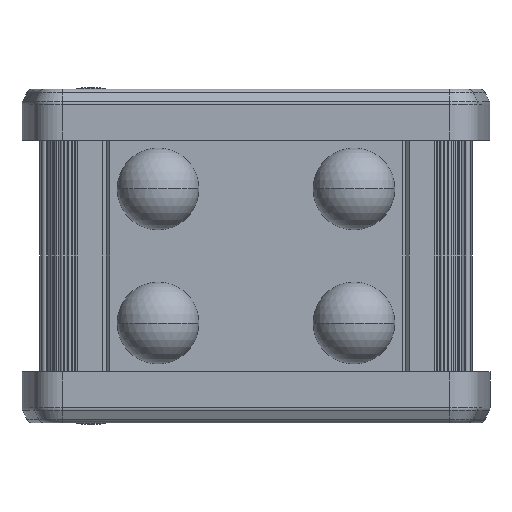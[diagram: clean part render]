
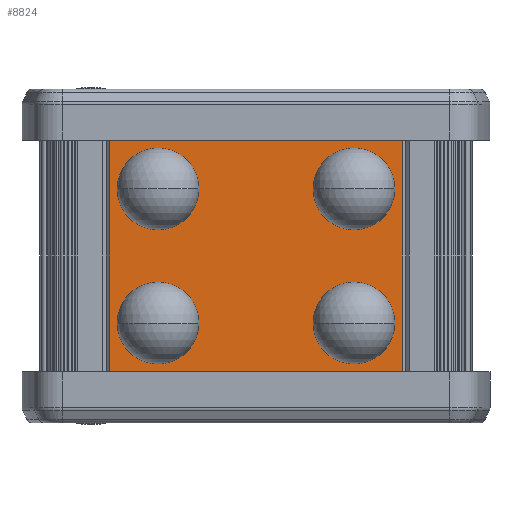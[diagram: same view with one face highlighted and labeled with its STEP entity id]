
A CAD part, front view. The second image highlights one B-rep face of the part: STEP entity #8824.
In plain terms, the highlighted planar face has unit normal (0, -1, 0).
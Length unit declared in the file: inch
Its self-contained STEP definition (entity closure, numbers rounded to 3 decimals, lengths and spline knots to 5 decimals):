
#663 = VECTOR ( 'NONE', #12424, 39.37008 ) ;
#1670 = VECTOR ( 'NONE', #2846, 39.37008 ) ;
#1831 = EDGE_CURVE ( 'NONE', #22042, #9207, #12651, .T. ) ;
#2179 = ORIENTED_EDGE ( 'NONE', *, *, #4778, .F. ) ;
#2846 = DIRECTION ( 'NONE',  ( 0., 0., -1. ) ) ;
#3227 = CARTESIAN_POINT ( 'NONE',  ( -0.84643, -0.59055, 0.7874 ) ) ;
#3478 = EDGE_CURVE ( 'NONE', #8076, #9817, #11125, .T. ) ;
#3909 = ORIENTED_EDGE ( 'NONE', *, *, #17363, .T. ) ;
#4778 = EDGE_CURVE ( 'NONE', #22042, #8076, #8996, .T. ) ;
#5798 = CARTESIAN_POINT ( 'NONE',  ( -0.84643, -0.59055, 0.7874 ) ) ;
#5835 = ORIENTED_EDGE ( 'NONE', *, *, #1831, .T. ) ;
#6125 = ORIENTED_EDGE ( 'NONE', *, *, #3478, .F. ) ;
#7281 = DIRECTION ( 'NONE',  ( 1., 0., 0. ) ) ;
#8067 = CARTESIAN_POINT ( 'NONE',  ( -0.84643, -0.59055, 0.7874 ) ) ;
#8076 = VERTEX_POINT ( 'NONE', #20332 ) ;
#8604 = VECTOR ( 'NONE', #12614, 39.37008 ) ;
#8824 = ADVANCED_FACE ( 'NONE', ( #10323 ), #11481, .F. ) ;
#8996 = LINE ( 'NONE', #12345, #17082 ) ;
#9207 = VERTEX_POINT ( 'NONE', #16546 ) ;
#9817 = VERTEX_POINT ( 'NONE', #16194 ) ;
#10323 = FACE_OUTER_BOUND ( 'NONE', #14517, .T. ) ;
#11125 = LINE ( 'NONE', #20149, #1670 ) ;
#11481 = PLANE ( 'NONE',  #14011 ) ;
#12345 = CARTESIAN_POINT ( 'NONE',  ( -0.84643, -0.59055, 0.7874 ) ) ;
#12424 = DIRECTION ( 'NONE',  ( 1., 0., 0. ) ) ;
#12614 = DIRECTION ( 'NONE',  ( 0., 0., -1. ) ) ;
#12651 = LINE ( 'NONE', #5798, #8604 ) ;
#14011 = AXIS2_PLACEMENT_3D ( 'NONE', #8067, #14919, #20064 ) ;
#14517 = EDGE_LOOP ( 'NONE', ( #3909, #6125, #2179, #5835 ) ) ;
#14919 = DIRECTION ( 'NONE',  ( 0., 1., 0. ) ) ;
#15665 = CARTESIAN_POINT ( 'NONE',  ( -0.84643, -0.59055, -0.7874 ) ) ;
#16194 = CARTESIAN_POINT ( 'NONE',  ( 0.84643, -0.59055, -0.7874 ) ) ;
#16546 = CARTESIAN_POINT ( 'NONE',  ( -0.84643, -0.59055, -0.7874 ) ) ;
#17082 = VECTOR ( 'NONE', #7281, 39.37008 ) ;
#17363 = EDGE_CURVE ( 'NONE', #9207, #9817, #20859, .T. ) ;
#20064 = DIRECTION ( 'NONE',  ( -1., 0., 0. ) ) ;
#20149 = CARTESIAN_POINT ( 'NONE',  ( 0.84643, -0.59055, 0.7874 ) ) ;
#20332 = CARTESIAN_POINT ( 'NONE',  ( 0.84643, -0.59055, 0.7874 ) ) ;
#20859 = LINE ( 'NONE', #15665, #663 ) ;
#22042 = VERTEX_POINT ( 'NONE', #3227 ) ;
